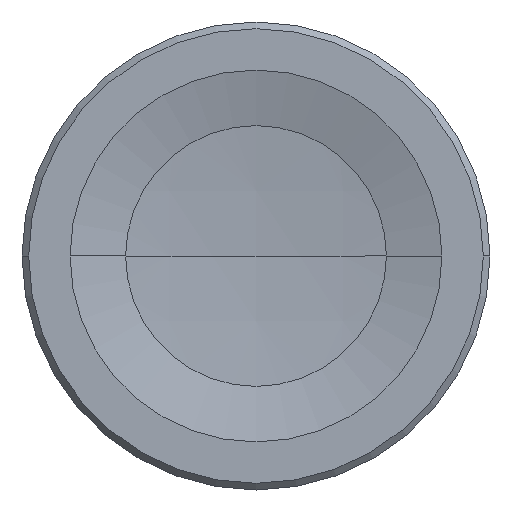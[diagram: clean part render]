
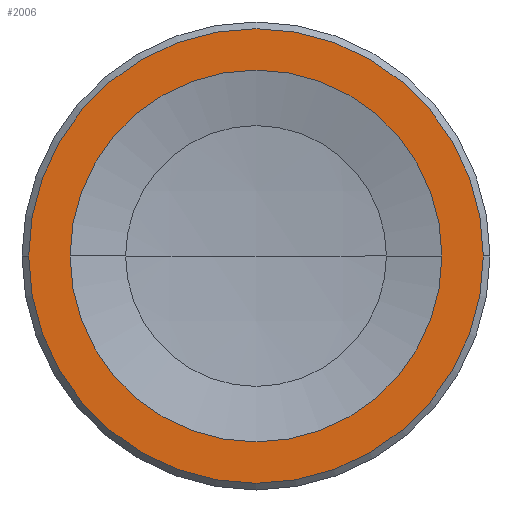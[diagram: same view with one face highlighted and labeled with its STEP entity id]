
A CAD part, left-side view. The second image highlights one B-rep face of the part: STEP entity #2006.
In plain terms, the highlighted planar face has unit normal (-1, 0, 0).
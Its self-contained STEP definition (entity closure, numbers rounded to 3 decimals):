
#91 = AXIS2_PLACEMENT_3D ( 'NONE', #3693, #3668, #3681 ) ;
#114 = AXIS2_PLACEMENT_3D ( 'NONE', #3879, #3901, #3884 ) ;
#115 = AXIS2_PLACEMENT_3D ( 'NONE', #3671, #3674, #3682 ) ;
#331 = EDGE_CURVE ( 'NONE', #1440, #1417, #827, .T. ) ;
#340 = EDGE_CURVE ( 'NONE', #1436, #1432, #826, .T. ) ;
#467 = AXIS2_PLACEMENT_3D ( 'NONE', #3065, #3090, #3069 ) ;
#498 = AXIS2_PLACEMENT_3D ( 'NONE', #3232, #3219, #3213 ) ;
#826 = CIRCLE ( 'NONE', #498, 5.562 ) ;
#827 = CIRCLE ( 'NONE', #467, 6.8 ) ;
#983 = CIRCLE ( 'NONE', #115, 5.562 ) ;
#1016 = CIRCLE ( 'NONE', #91, 6.8 ) ;
#1138 = FACE_OUTER_BOUND ( 'NONE', #2369, .T. ) ;
#1143 = FACE_BOUND ( 'NONE', #2363, .T. ) ;
#1417 = VERTEX_POINT ( 'NONE', #3343 ) ;
#1432 = VERTEX_POINT ( 'NONE', #3398 ) ;
#1436 = VERTEX_POINT ( 'NONE', #3349 ) ;
#1440 = VERTEX_POINT ( 'NONE', #3367 ) ;
#1592 = ORIENTED_EDGE ( 'NONE', *, *, #340, .T. ) ;
#1599 = ORIENTED_EDGE ( 'NONE', *, *, #1927, .F. ) ;
#1601 = ORIENTED_EDGE ( 'NONE', *, *, #1922, .T. ) ;
#1617 = ORIENTED_EDGE ( 'NONE', *, *, #331, .F. ) ;
#1922 = EDGE_CURVE ( 'NONE', #1432, #1436, #983, .T. ) ;
#1927 = EDGE_CURVE ( 'NONE', #1417, #1440, #1016, .T. ) ;
#2006 = ADVANCED_FACE ( 'NONE', ( #1143, #1138 ), #3863, .T. ) ;
#2363 = EDGE_LOOP ( 'NONE', ( #1601, #1592 ) ) ;
#2369 = EDGE_LOOP ( 'NONE', ( #1599, #1617 ) ) ;
#3065 = CARTESIAN_POINT ( 'NONE',  ( 4422.818, 786.106, 0. ) ) ;
#3069 = DIRECTION ( 'NONE',  ( 0., 1., 0. ) ) ;
#3090 = DIRECTION ( 'NONE',  ( 1., 0., 0. ) ) ;
#3213 = DIRECTION ( 'NONE',  ( 0., 1., 0. ) ) ;
#3219 = DIRECTION ( 'NONE',  ( 1., 0., 0. ) ) ;
#3232 = CARTESIAN_POINT ( 'NONE',  ( 4422.818, 786.106, 0. ) ) ;
#3343 = CARTESIAN_POINT ( 'NONE',  ( 4422.818, 792.906, 0. ) ) ;
#3349 = CARTESIAN_POINT ( 'NONE',  ( 4422.818, 791.668, 0. ) ) ;
#3367 = CARTESIAN_POINT ( 'NONE',  ( 4422.818, 779.306, 0. ) ) ;
#3398 = CARTESIAN_POINT ( 'NONE',  ( 4422.818, 780.544, 0. ) ) ;
#3668 = DIRECTION ( 'NONE',  ( 1., 0., 0. ) ) ;
#3671 = CARTESIAN_POINT ( 'NONE',  ( 4422.818, 786.106, 0. ) ) ;
#3674 = DIRECTION ( 'NONE',  ( 1., 0., 0. ) ) ;
#3681 = DIRECTION ( 'NONE',  ( 0., 1., 0. ) ) ;
#3682 = DIRECTION ( 'NONE',  ( 0., 1., 0. ) ) ;
#3693 = CARTESIAN_POINT ( 'NONE',  ( 4422.818, 786.106, 0. ) ) ;
#3863 = PLANE ( 'NONE',  #114 ) ;
#3879 = CARTESIAN_POINT ( 'NONE',  ( 4422.818, 0., 0. ) ) ;
#3884 = DIRECTION ( 'NONE',  ( 0., -1., 0. ) ) ;
#3901 = DIRECTION ( 'NONE',  ( -1., 0., 0. ) ) ;
